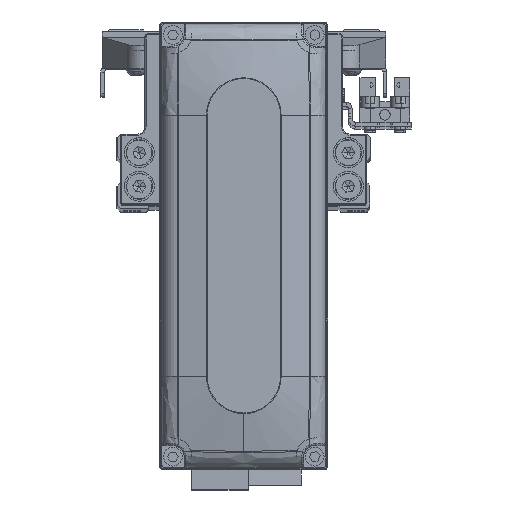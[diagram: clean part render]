
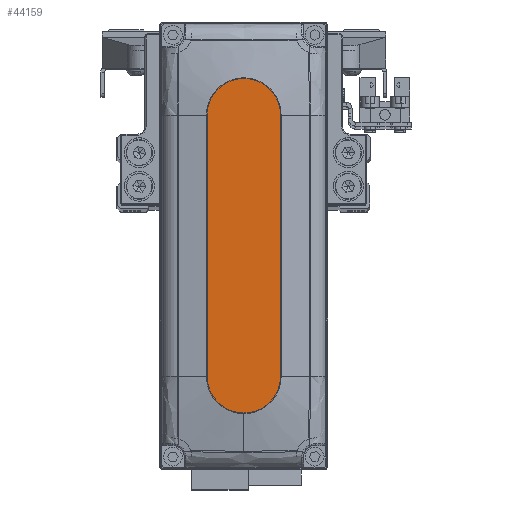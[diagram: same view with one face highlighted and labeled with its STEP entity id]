
A CAD part, top view. The second image highlights one B-rep face of the part: STEP entity #44159.
In plain terms, the highlighted planar face has unit normal (0, 0, 1).
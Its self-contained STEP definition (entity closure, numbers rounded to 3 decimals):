
#319 = CARTESIAN_POINT ( 'NONE',  ( -35., -10., 28. ) ) ;
#757 = VECTOR ( 'NONE', #37522, 1000. ) ;
#835 = DIRECTION ( 'NONE',  ( 1., 0., 0. ) ) ;
#1532 = DIRECTION ( 'NONE',  ( 1., 0., 0. ) ) ;
#3604 = DIRECTION ( 'NONE',  ( 1., 0., 0. ) ) ;
#4195 = PLANE ( 'NONE',  #30218 ) ;
#5090 = ORIENTED_EDGE ( 'NONE', *, *, #25954, .T. ) ;
#5632 = CARTESIAN_POINT ( 'NONE',  ( -35., 0., 28. ) ) ;
#6226 = CARTESIAN_POINT ( 'NONE',  ( -35., 10., 28. ) ) ;
#6742 = DIRECTION ( 'NONE',  ( 1., 0., 0. ) ) ;
#7442 = VERTEX_POINT ( 'NONE', #40766 ) ;
#10078 = LINE ( 'NONE', #23788, #757 ) ;
#10576 = AXIS2_PLACEMENT_3D ( 'NONE', #5632, #19337, #33066 ) ;
#12804 = EDGE_CURVE ( 'NONE', #21020, #16802, #29930, .T. ) ;
#13317 = EDGE_LOOP ( 'NONE', ( #37101, #39734, #27442, #43239, #5090 ) ) ;
#16802 = VERTEX_POINT ( 'NONE', #319 ) ;
#16953 = CIRCLE ( 'NONE', #22673, 10. ) ;
#17914 = CARTESIAN_POINT ( 'NONE',  ( 0., 0., 28. ) ) ;
#18607 = CARTESIAN_POINT ( 'NONE',  ( 35., 0., 28. ) ) ;
#19337 = DIRECTION ( 'NONE',  ( 0., 0., 1. ) ) ;
#20585 = EDGE_CURVE ( 'NONE', #16802, #30080, #23820, .T. ) ;
#20686 = CARTESIAN_POINT ( 'NONE',  ( 35., 0., 28. ) ) ;
#21020 = VERTEX_POINT ( 'NONE', #6226 ) ;
#22673 = AXIS2_PLACEMENT_3D ( 'NONE', #20686, #34415, #3604 ) ;
#23788 = CARTESIAN_POINT ( 'NONE',  ( -35., 10., 28. ) ) ;
#23820 = LINE ( 'NONE', #37551, #28899 ) ;
#25954 = EDGE_CURVE ( 'NONE', #34868, #7442, #16953, .T. ) ;
#27442 = ORIENTED_EDGE ( 'NONE', *, *, #20585, .T. ) ;
#27865 = CARTESIAN_POINT ( 'NONE',  ( 45., 0., 28. ) ) ;
#28619 = EDGE_CURVE ( 'NONE', #7442, #21020, #10078, .T. ) ;
#28899 = VECTOR ( 'NONE', #6742, 1000. ) ;
#29930 = CIRCLE ( 'NONE', #10576, 10. ) ;
#30080 = VERTEX_POINT ( 'NONE', #33416 ) ;
#30218 = AXIS2_PLACEMENT_3D ( 'NONE', #17914, #31627, #835 ) ;
#31627 = DIRECTION ( 'NONE',  ( 0., 0., 1. ) ) ;
#32206 = CIRCLE ( 'NONE', #37979, 10. ) ;
#32323 = DIRECTION ( 'NONE',  ( 0., 0., 1. ) ) ;
#33066 = DIRECTION ( 'NONE',  ( 1., 0., 0. ) ) ;
#33280 = EDGE_CURVE ( 'NONE', #30080, #34868, #32206, .T. ) ;
#33416 = CARTESIAN_POINT ( 'NONE',  ( 35., -10., 28. ) ) ;
#34415 = DIRECTION ( 'NONE',  ( 0., 0., 1. ) ) ;
#34868 = VERTEX_POINT ( 'NONE', #27865 ) ;
#35007 = FACE_OUTER_BOUND ( 'NONE', #13317, .T. ) ;
#37101 = ORIENTED_EDGE ( 'NONE', *, *, #28619, .T. ) ;
#37522 = DIRECTION ( 'NONE',  ( -1., 0., 0. ) ) ;
#37551 = CARTESIAN_POINT ( 'NONE',  ( -35., -10., 28. ) ) ;
#37979 = AXIS2_PLACEMENT_3D ( 'NONE', #18607, #32323, #1532 ) ;
#39734 = ORIENTED_EDGE ( 'NONE', *, *, #12804, .T. ) ;
#40766 = CARTESIAN_POINT ( 'NONE',  ( 35., 10., 28. ) ) ;
#43239 = ORIENTED_EDGE ( 'NONE', *, *, #33280, .T. ) ;
#44159 = ADVANCED_FACE ( 'NONE', ( #35007 ), #4195, .T. ) ;
